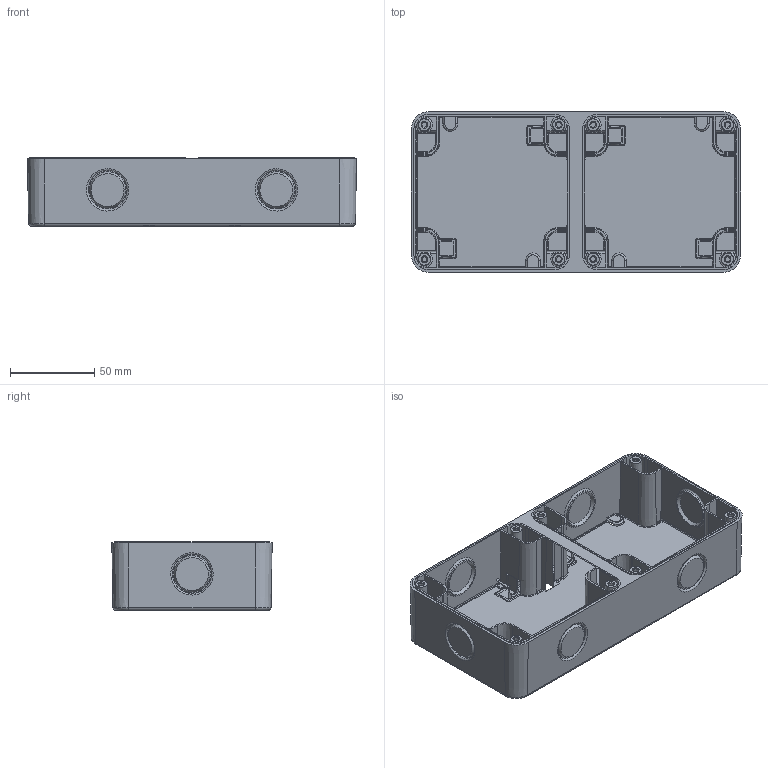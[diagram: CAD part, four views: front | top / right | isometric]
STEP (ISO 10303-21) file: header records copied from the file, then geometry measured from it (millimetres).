
FILE_DESCRIPTION(/* description */ (''),/* implementation_level */ '2;1');
FILE_NAME(/* name */ '4001498.stp',/* time_stamp */ '2016-09-22T10:01:18+02:00',/* author */ (''),/* organization */ (''),/* preprocessor_version */ 'ST-DEVELOPER v16',/* originating_system */ 'SIEMENS PLM Software NX 11.0',/* authorisation */ '');
FILE_SCHEMA (('AUTOMOTIVE_DESIGN { 1 0 10303 214 3 1 1 1 }'));
Length unit declared in the file: millimetre
Products named in the file (1): 4001498_LINKEDEXT_jt
Bounding box: 195 x 95 x 40.5 mm (x, y, z)
Surface area: 89440.2 mm2 (no closed solid volume)
Topology: 0 solids, 31 shells, 498 faces, 1775 edges, 1249 vertices
Faces by surface type: plane 201, cylinder 112, cone 83, torus 56, bspline 46
Entity records: 21902 total; most frequent: CARTESIAN_POINT 7297, DIRECTION 3046, ORIENTED_EDGE 2566, EDGE_CURVE 1717, VERTEX_POINT 1225, AXIS2_PLACEMENT_3D 1120, LINE 806, VECTOR 806
